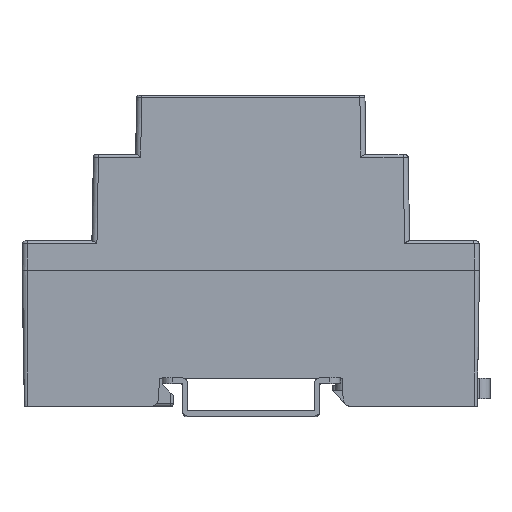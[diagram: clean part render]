
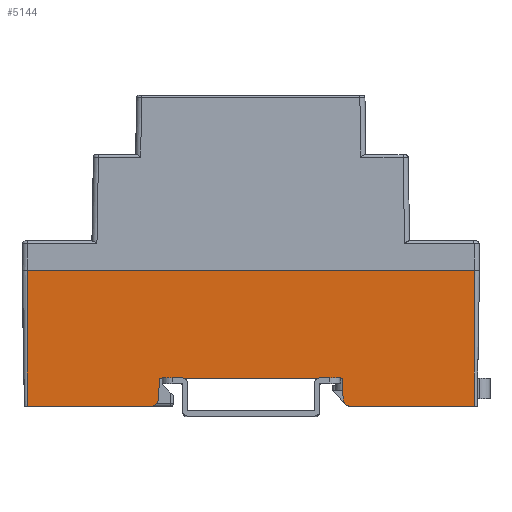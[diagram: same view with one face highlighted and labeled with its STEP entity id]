
A CAD part, top view. The second image highlights one B-rep face of the part: STEP entity #5144.
In plain terms, the highlighted planar face has unit normal (0, -0.018, 1).
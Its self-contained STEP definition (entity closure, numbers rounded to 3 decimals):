
#66 = CARTESIAN_POINT ( 'NONE',  ( 44., -21.2, 17.13 ) ) ;
#531 = CARTESIAN_POINT ( 'NONE',  ( 44., -26.7, 17.034 ) ) ;
#780 = LINE ( 'NONE', #7644, #6388 ) ;
#930 = VERTEX_POINT ( 'NONE', #10882 ) ;
#1174 = ORIENTED_EDGE ( 'NONE', *, *, #16805, .F. ) ;
#1250 = DIRECTION ( 'NONE',  ( 1., 0., 0. ) ) ;
#1253 = VERTEX_POINT ( 'NONE', #21161 ) ;
#1360 = VECTOR ( 'NONE', #6455, 1000. ) ;
#1368 = ORIENTED_EDGE ( 'NONE', *, *, #5232, .T. ) ;
#1588 = ORIENTED_EDGE ( 'NONE', *, *, #9900, .F. ) ;
#1797 = PLANE ( 'NONE',  #21363 ) ;
#2059 = CARTESIAN_POINT ( 'NONE',  ( -16.672, 3.179, 17.555 ) ) ;
#2203 = EDGE_CURVE ( 'NONE', #930, #3966, #20860, .T. ) ;
#2213 = CARTESIAN_POINT ( 'NONE',  ( 44., 0., 17.5 ) ) ;
#2738 = CARTESIAN_POINT ( 'NONE',  ( 17.95, -21.2, 17.13 ) ) ;
#2826 = VERTEX_POINT ( 'NONE', #13809 ) ;
#2903 = LINE ( 'NONE', #11324, #1360 ) ;
#3130 = DIRECTION ( 'NONE',  ( 0., -1., -0.017 ) ) ;
#3246 = CARTESIAN_POINT ( 'NONE',  ( 18.819, -26.7, 17.034 ) ) ;
#3728 = LINE ( 'NONE', #66, #19398 ) ;
#3966 = VERTEX_POINT ( 'NONE', #15595 ) ;
#4565 = CARTESIAN_POINT ( 'NONE',  ( -19.662, -26.7, 17.034 ) ) ;
#4788 = CARTESIAN_POINT ( 'NONE',  ( 44., 0., 17.5 ) ) ;
#5144 = ADVANCED_FACE ( 'NONE', ( #13565 ), #1797, .T. ) ;
#5232 = EDGE_CURVE ( 'NONE', #6267, #2826, #12364, .T. ) ;
#5307 = LINE ( 'NONE', #531, #5593 ) ;
#5593 = VECTOR ( 'NONE', #13966, 1000. ) ;
#5773 = CARTESIAN_POINT ( 'NONE',  ( -18.164, -25.279, 17.059 ) ) ;
#6267 = VERTEX_POINT ( 'NONE', #19333 ) ;
#6304 = VERTEX_POINT ( 'NONE', #4565 ) ;
#6388 = VECTOR ( 'NONE', #17856, 1000. ) ;
#6455 = DIRECTION ( 'NONE',  ( -0.052, 0.998, 0.017 ) ) ;
#6490 = CARTESIAN_POINT ( 'NONE',  ( -44., 0., 17.5 ) ) ;
#6814 = ORIENTED_EDGE ( 'NONE', *, *, #16274, .T. ) ;
#7443 = VERTEX_POINT ( 'NONE', #6490 ) ;
#7644 = CARTESIAN_POINT ( 'NONE',  ( 44., -26.7, 17.034 ) ) ;
#7722 = VECTOR ( 'NONE', #17047, 1000. ) ;
#7930 = ORIENTED_EDGE ( 'NONE', *, *, #10545, .F. ) ;
#8480 = VECTOR ( 'NONE', #1250, 1000. ) ;
#8541 = CARTESIAN_POINT ( 'NONE',  ( -18.164, -25.279, 17.059 ) ) ;
#8891 = EDGE_CURVE ( 'NONE', #6304, #19113, #19876, .T. ) ;
#8979 = DIRECTION ( 'NONE',  ( 0., 1., 0.017 ) ) ;
#9230 = CARTESIAN_POINT ( 'NONE',  ( -17.95, -21.2, 17.13 ) ) ;
#9418 = VERTEX_POINT ( 'NONE', #2738 ) ;
#9474 = DIRECTION ( 'NONE',  ( -1., 0., 0. ) ) ;
#9798 = CARTESIAN_POINT ( 'NONE',  ( 44., 0., 17.5 ) ) ;
#9884 = ORIENTED_EDGE ( 'NONE', *, *, #2203, .T. ) ;
#9900 = EDGE_CURVE ( 'NONE', #7443, #3966, #16466, .T. ) ;
#10192 = EDGE_CURVE ( 'NONE', #1253, #6304, #780, .T. ) ;
#10245 = CARTESIAN_POINT ( 'NONE',  ( 19.662, -26.7, 17.034 ) ) ;
#10545 = EDGE_CURVE ( 'NONE', #1253, #7443, #12410, .T. ) ;
#10882 = CARTESIAN_POINT ( 'NONE',  ( 44., -26.7, 17.034 ) ) ;
#11324 = CARTESIAN_POINT ( 'NONE',  ( 16.913, -1.419, 17.475 ) ) ;
#11541 = ORIENTED_EDGE ( 'NONE', *, *, #8891, .T. ) ;
#11553 = DIRECTION ( 'NONE',  ( 0., -0.017, 1. ) ) ;
#11666 = VECTOR ( 'NONE', #19175, 1000. ) ;
#12364 =( BOUNDED_CURVE ( )  B_SPLINE_CURVE ( 3, ( #18433, #21897, #3246, #10245 ),
 .UNSPECIFIED., .F., .F. ) 
 B_SPLINE_CURVE_WITH_KNOTS ( ( 4, 4 ),
 ( 4.765, 6.283 ),
 .UNSPECIFIED. ) 
 CURVE ( )  GEOMETRIC_REPRESENTATION_ITEM ( )  RATIONAL_B_SPLINE_CURVE ( ( 1., 0.817, 0.817, 1. ) ) 
 REPRESENTATION_ITEM ( '' )  );
#12410 = LINE ( 'NONE', #13858, #11666 ) ;
#12535 = CARTESIAN_POINT ( 'NONE',  ( -18.208, -26.12, 17.044 ) ) ;
#13565 = FACE_OUTER_BOUND ( 'NONE', #18194, .T. ) ;
#13809 = CARTESIAN_POINT ( 'NONE',  ( 19.662, -26.7, 17.034 ) ) ;
#13858 = CARTESIAN_POINT ( 'NONE',  ( -44., 0., 17.5 ) ) ;
#13966 = DIRECTION ( 'NONE',  ( 1., 0., 0. ) ) ;
#14752 = ORIENTED_EDGE ( 'NONE', *, *, #15756, .F. ) ;
#15595 = CARTESIAN_POINT ( 'NONE',  ( 44., 0., 17.5 ) ) ;
#15756 = EDGE_CURVE ( 'NONE', #9418, #21509, #3728, .T. ) ;
#16144 = ORIENTED_EDGE ( 'NONE', *, *, #17472, .F. ) ;
#16274 = EDGE_CURVE ( 'NONE', #2826, #930, #5307, .T. ) ;
#16466 = LINE ( 'NONE', #9798, #8480 ) ;
#16805 = EDGE_CURVE ( 'NONE', #21509, #19113, #18698, .T. ) ;
#17047 = DIRECTION ( 'NONE',  ( -0.052, -0.998, -0.017 ) ) ;
#17472 = EDGE_CURVE ( 'NONE', #6267, #9418, #2903, .T. ) ;
#17749 = CARTESIAN_POINT ( 'NONE',  ( -18.819, -26.7, 17.034 ) ) ;
#17809 = ORIENTED_EDGE ( 'NONE', *, *, #10192, .T. ) ;
#17856 = DIRECTION ( 'NONE',  ( 1., 0., 0. ) ) ;
#18194 = EDGE_LOOP ( 'NONE', ( #16144, #1368, #6814, #9884, #1588, #7930, #17809, #11541, #1174, #14752 ) ) ;
#18433 = CARTESIAN_POINT ( 'NONE',  ( 18.164, -25.279, 17.059 ) ) ;
#18698 = LINE ( 'NONE', #2059, #7722 ) ;
#19113 = VERTEX_POINT ( 'NONE', #8541 ) ;
#19175 = DIRECTION ( 'NONE',  ( 0., 1., 0.017 ) ) ;
#19333 = CARTESIAN_POINT ( 'NONE',  ( 18.164, -25.279, 17.059 ) ) ;
#19398 = VECTOR ( 'NONE', #9474, 1000. ) ;
#19876 =( BOUNDED_CURVE ( )  B_SPLINE_CURVE ( 3, ( #21422, #17749, #12535, #5773 ),
 .UNSPECIFIED., .F., .F. ) 
 B_SPLINE_CURVE_WITH_KNOTS ( ( 4, 4 ),
 ( 3.142, 4.66 ),
 .UNSPECIFIED. ) 
 CURVE ( )  GEOMETRIC_REPRESENTATION_ITEM ( )  RATIONAL_B_SPLINE_CURVE ( ( 1., 0.817, 0.817, 1. ) ) 
 REPRESENTATION_ITEM ( '' )  );
#20860 = LINE ( 'NONE', #2213, #20919 ) ;
#20919 = VECTOR ( 'NONE', #8979, 1000. ) ;
#21161 = CARTESIAN_POINT ( 'NONE',  ( -44., -26.7, 17.034 ) ) ;
#21363 = AXIS2_PLACEMENT_3D ( 'NONE', #4788, #11553, #3130 ) ;
#21422 = CARTESIAN_POINT ( 'NONE',  ( -19.662, -26.7, 17.034 ) ) ;
#21509 = VERTEX_POINT ( 'NONE', #9230 ) ;
#21897 = CARTESIAN_POINT ( 'NONE',  ( 18.208, -26.12, 17.044 ) ) ;
